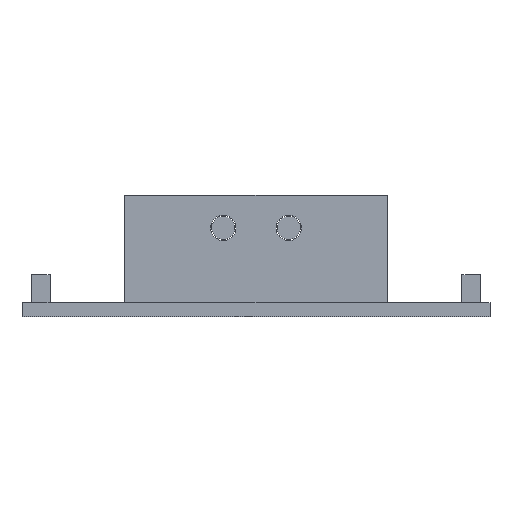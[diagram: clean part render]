
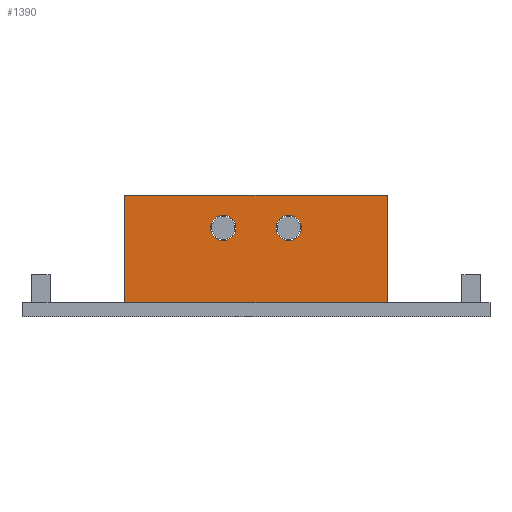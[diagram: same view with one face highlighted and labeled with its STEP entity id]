
A CAD part, front view. The second image highlights one B-rep face of the part: STEP entity #1390.
In plain terms, the highlighted planar face has unit normal (0, -1, 0).
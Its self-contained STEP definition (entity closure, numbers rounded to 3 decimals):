
#152 = PLANE('',#153);
#153 = AXIS2_PLACEMENT_3D('',#154,#155,#156);
#154 = CARTESIAN_POINT('',(-25.,-35.,1.5));
#155 = DIRECTION('',(0.,0.,1.));
#156 = DIRECTION('',(1.,0.,0.));
#506 = VERTEX_POINT('',#507);
#507 = CARTESIAN_POINT('',(-14.,-31.,1.5));
#523 = PLANE('',#524);
#524 = AXIS2_PLACEMENT_3D('',#525,#526,#527);
#525 = CARTESIAN_POINT('',(-14.,-31.,1.5));
#526 = DIRECTION('',(1.,0.,0.));
#527 = DIRECTION('',(0.,0.,1.));
#564 = VERTEX_POINT('',#565);
#565 = CARTESIAN_POINT('',(14.,-31.,1.5));
#579 = PLANE('',#580);
#580 = AXIS2_PLACEMENT_3D('',#581,#582,#583);
#581 = CARTESIAN_POINT('',(14.,-31.,1.5));
#582 = DIRECTION('',(1.,0.,0.));
#583 = DIRECTION('',(0.,0.,1.));
#591 = EDGE_CURVE('',#506,#564,#592,.T.);
#592 = SURFACE_CURVE('',#593,(#597,#604),.PCURVE_S1.);
#593 = LINE('',#594,#595);
#594 = CARTESIAN_POINT('',(-14.,-31.,1.5));
#595 = VECTOR('',#596,1.);
#596 = DIRECTION('',(1.,0.,0.));
#597 = PCURVE('',#152,#598);
#598 = DEFINITIONAL_REPRESENTATION('',(#599),#603);
#599 = LINE('',#600,#601);
#600 = CARTESIAN_POINT('',(11.,4.));
#601 = VECTOR('',#602,1.);
#602 = DIRECTION('',(1.,0.));
#603 = ( GEOMETRIC_REPRESENTATION_CONTEXT(2) 
PARAMETRIC_REPRESENTATION_CONTEXT() REPRESENTATION_CONTEXT('2D SPACE',''
  ) );
#604 = PCURVE('',#605,#610);
#605 = PLANE('',#606);
#606 = AXIS2_PLACEMENT_3D('',#607,#608,#609);
#607 = CARTESIAN_POINT('',(-14.,-31.,1.5));
#608 = DIRECTION('',(0.,1.,0.));
#609 = DIRECTION('',(0.,0.,1.));
#610 = DEFINITIONAL_REPRESENTATION('',(#611),#615);
#611 = LINE('',#612,#613);
#612 = CARTESIAN_POINT('',(0.,0.));
#613 = VECTOR('',#614,1.);
#614 = DIRECTION('',(0.,1.));
#615 = ( GEOMETRIC_REPRESENTATION_CONTEXT(2) 
PARAMETRIC_REPRESENTATION_CONTEXT() REPRESENTATION_CONTEXT('2D SPACE',''
  ) );
#1207 = EDGE_CURVE('',#506,#1208,#1210,.T.);
#1208 = VERTEX_POINT('',#1209);
#1209 = CARTESIAN_POINT('',(-14.,-31.,13.));
#1210 = SURFACE_CURVE('',#1211,(#1215,#1222),.PCURVE_S1.);
#1211 = LINE('',#1212,#1213);
#1212 = CARTESIAN_POINT('',(-14.,-31.,1.5));
#1213 = VECTOR('',#1214,1.);
#1214 = DIRECTION('',(0.,0.,1.));
#1215 = PCURVE('',#523,#1216);
#1216 = DEFINITIONAL_REPRESENTATION('',(#1217),#1221);
#1217 = LINE('',#1218,#1219);
#1218 = CARTESIAN_POINT('',(0.,0.));
#1219 = VECTOR('',#1220,1.);
#1220 = DIRECTION('',(1.,0.));
#1221 = ( GEOMETRIC_REPRESENTATION_CONTEXT(2) 
PARAMETRIC_REPRESENTATION_CONTEXT() REPRESENTATION_CONTEXT('2D SPACE',''
  ) );
#1222 = PCURVE('',#605,#1223);
#1223 = DEFINITIONAL_REPRESENTATION('',(#1224),#1228);
#1224 = LINE('',#1225,#1226);
#1225 = CARTESIAN_POINT('',(0.,0.));
#1226 = VECTOR('',#1227,1.);
#1227 = DIRECTION('',(1.,0.));
#1228 = ( GEOMETRIC_REPRESENTATION_CONTEXT(2) 
PARAMETRIC_REPRESENTATION_CONTEXT() REPRESENTATION_CONTEXT('2D SPACE',''
  ) );
#1268 = PLANE('',#1269);
#1269 = AXIS2_PLACEMENT_3D('',#1270,#1271,#1272);
#1270 = CARTESIAN_POINT('',(-14.,-31.,13.));
#1271 = DIRECTION('',(0.,0.,1.));
#1272 = DIRECTION('',(1.,0.,0.));
#1348 = CYLINDRICAL_SURFACE('',#1349,1.35);
#1349 = AXIS2_PLACEMENT_3D('',#1350,#1351,#1352);
#1350 = CARTESIAN_POINT('',(-3.5,-31.5,9.5));
#1351 = DIRECTION('',(0.,1.,0.));
#1352 = DIRECTION('',(0.,-0.,1.));
#1379 = CYLINDRICAL_SURFACE('',#1380,1.35);
#1380 = AXIS2_PLACEMENT_3D('',#1381,#1382,#1383);
#1381 = CARTESIAN_POINT('',(3.5,-31.5,9.5));
#1382 = DIRECTION('',(0.,1.,0.));
#1383 = DIRECTION('',(0.,-0.,1.));
#1390 = ADVANCED_FACE('',(#1391,#1439,#1465),#605,.F.);
#1391 = FACE_BOUND('',#1392,.F.);
#1392 = EDGE_LOOP('',(#1393,#1394,#1395,#1418));
#1393 = ORIENTED_EDGE('',*,*,#591,.F.);
#1394 = ORIENTED_EDGE('',*,*,#1207,.T.);
#1395 = ORIENTED_EDGE('',*,*,#1396,.T.);
#1396 = EDGE_CURVE('',#1208,#1397,#1399,.T.);
#1397 = VERTEX_POINT('',#1398);
#1398 = CARTESIAN_POINT('',(14.,-31.,13.));
#1399 = SURFACE_CURVE('',#1400,(#1404,#1411),.PCURVE_S1.);
#1400 = LINE('',#1401,#1402);
#1401 = CARTESIAN_POINT('',(-14.,-31.,13.));
#1402 = VECTOR('',#1403,1.);
#1403 = DIRECTION('',(1.,0.,0.));
#1404 = PCURVE('',#605,#1405);
#1405 = DEFINITIONAL_REPRESENTATION('',(#1406),#1410);
#1406 = LINE('',#1407,#1408);
#1407 = CARTESIAN_POINT('',(11.5,0.));
#1408 = VECTOR('',#1409,1.);
#1409 = DIRECTION('',(0.,1.));
#1410 = ( GEOMETRIC_REPRESENTATION_CONTEXT(2) 
PARAMETRIC_REPRESENTATION_CONTEXT() REPRESENTATION_CONTEXT('2D SPACE',''
  ) );
#1411 = PCURVE('',#1268,#1412);
#1412 = DEFINITIONAL_REPRESENTATION('',(#1413),#1417);
#1413 = LINE('',#1414,#1415);
#1414 = CARTESIAN_POINT('',(0.,0.));
#1415 = VECTOR('',#1416,1.);
#1416 = DIRECTION('',(1.,0.));
#1417 = ( GEOMETRIC_REPRESENTATION_CONTEXT(2) 
PARAMETRIC_REPRESENTATION_CONTEXT() REPRESENTATION_CONTEXT('2D SPACE',''
  ) );
#1418 = ORIENTED_EDGE('',*,*,#1419,.F.);
#1419 = EDGE_CURVE('',#564,#1397,#1420,.T.);
#1420 = SURFACE_CURVE('',#1421,(#1425,#1432),.PCURVE_S1.);
#1421 = LINE('',#1422,#1423);
#1422 = CARTESIAN_POINT('',(14.,-31.,1.5));
#1423 = VECTOR('',#1424,1.);
#1424 = DIRECTION('',(0.,0.,1.));
#1425 = PCURVE('',#605,#1426);
#1426 = DEFINITIONAL_REPRESENTATION('',(#1427),#1431);
#1427 = LINE('',#1428,#1429);
#1428 = CARTESIAN_POINT('',(0.,28.));
#1429 = VECTOR('',#1430,1.);
#1430 = DIRECTION('',(1.,0.));
#1431 = ( GEOMETRIC_REPRESENTATION_CONTEXT(2) 
PARAMETRIC_REPRESENTATION_CONTEXT() REPRESENTATION_CONTEXT('2D SPACE',''
  ) );
#1432 = PCURVE('',#579,#1433);
#1433 = DEFINITIONAL_REPRESENTATION('',(#1434),#1438);
#1434 = LINE('',#1435,#1436);
#1435 = CARTESIAN_POINT('',(0.,0.));
#1436 = VECTOR('',#1437,1.);
#1437 = DIRECTION('',(1.,0.));
#1438 = ( GEOMETRIC_REPRESENTATION_CONTEXT(2) 
PARAMETRIC_REPRESENTATION_CONTEXT() REPRESENTATION_CONTEXT('2D SPACE',''
  ) );
#1439 = FACE_BOUND('',#1440,.F.);
#1440 = EDGE_LOOP('',(#1441));
#1441 = ORIENTED_EDGE('',*,*,#1442,.F.);
#1442 = EDGE_CURVE('',#1443,#1443,#1445,.T.);
#1443 = VERTEX_POINT('',#1444);
#1444 = CARTESIAN_POINT('',(-3.5,-31.,10.85));
#1445 = SURFACE_CURVE('',#1446,(#1451,#1458),.PCURVE_S1.);
#1446 = CIRCLE('',#1447,1.35);
#1447 = AXIS2_PLACEMENT_3D('',#1448,#1449,#1450);
#1448 = CARTESIAN_POINT('',(-3.5,-31.,9.5));
#1449 = DIRECTION('',(0.,1.,0.));
#1450 = DIRECTION('',(0.,-0.,1.));
#1451 = PCURVE('',#605,#1452);
#1452 = DEFINITIONAL_REPRESENTATION('',(#1453),#1457);
#1453 = CIRCLE('',#1454,1.35);
#1454 = AXIS2_PLACEMENT_2D('',#1455,#1456);
#1455 = CARTESIAN_POINT('',(8.,10.5));
#1456 = DIRECTION('',(1.,0.));
#1457 = ( GEOMETRIC_REPRESENTATION_CONTEXT(2) 
PARAMETRIC_REPRESENTATION_CONTEXT() REPRESENTATION_CONTEXT('2D SPACE',''
  ) );
#1458 = PCURVE('',#1348,#1459);
#1459 = DEFINITIONAL_REPRESENTATION('',(#1460),#1464);
#1460 = LINE('',#1461,#1462);
#1461 = CARTESIAN_POINT('',(0.,0.5));
#1462 = VECTOR('',#1463,1.);
#1463 = DIRECTION('',(1.,0.));
#1464 = ( GEOMETRIC_REPRESENTATION_CONTEXT(2) 
PARAMETRIC_REPRESENTATION_CONTEXT() REPRESENTATION_CONTEXT('2D SPACE',''
  ) );
#1465 = FACE_BOUND('',#1466,.F.);
#1466 = EDGE_LOOP('',(#1467));
#1467 = ORIENTED_EDGE('',*,*,#1468,.F.);
#1468 = EDGE_CURVE('',#1469,#1469,#1471,.T.);
#1469 = VERTEX_POINT('',#1470);
#1470 = CARTESIAN_POINT('',(3.5,-31.,10.85));
#1471 = SURFACE_CURVE('',#1472,(#1477,#1484),.PCURVE_S1.);
#1472 = CIRCLE('',#1473,1.35);
#1473 = AXIS2_PLACEMENT_3D('',#1474,#1475,#1476);
#1474 = CARTESIAN_POINT('',(3.5,-31.,9.5));
#1475 = DIRECTION('',(0.,1.,0.));
#1476 = DIRECTION('',(0.,-0.,1.));
#1477 = PCURVE('',#605,#1478);
#1478 = DEFINITIONAL_REPRESENTATION('',(#1479),#1483);
#1479 = CIRCLE('',#1480,1.35);
#1480 = AXIS2_PLACEMENT_2D('',#1481,#1482);
#1481 = CARTESIAN_POINT('',(8.,17.5));
#1482 = DIRECTION('',(1.,0.));
#1483 = ( GEOMETRIC_REPRESENTATION_CONTEXT(2) 
PARAMETRIC_REPRESENTATION_CONTEXT() REPRESENTATION_CONTEXT('2D SPACE',''
  ) );
#1484 = PCURVE('',#1379,#1485);
#1485 = DEFINITIONAL_REPRESENTATION('',(#1486),#1490);
#1486 = LINE('',#1487,#1488);
#1487 = CARTESIAN_POINT('',(0.,0.5));
#1488 = VECTOR('',#1489,1.);
#1489 = DIRECTION('',(1.,0.));
#1490 = ( GEOMETRIC_REPRESENTATION_CONTEXT(2) 
PARAMETRIC_REPRESENTATION_CONTEXT() REPRESENTATION_CONTEXT('2D SPACE',''
  ) );
